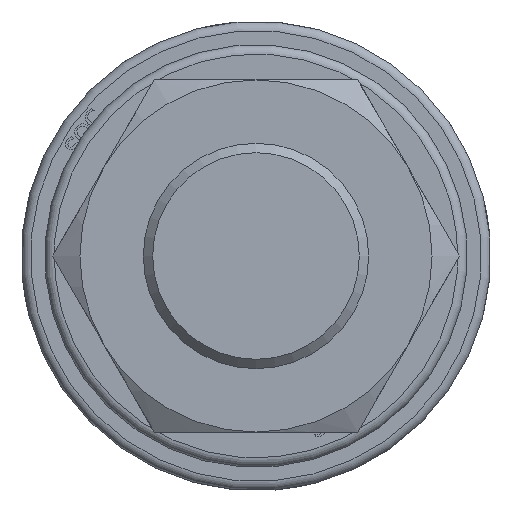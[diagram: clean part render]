
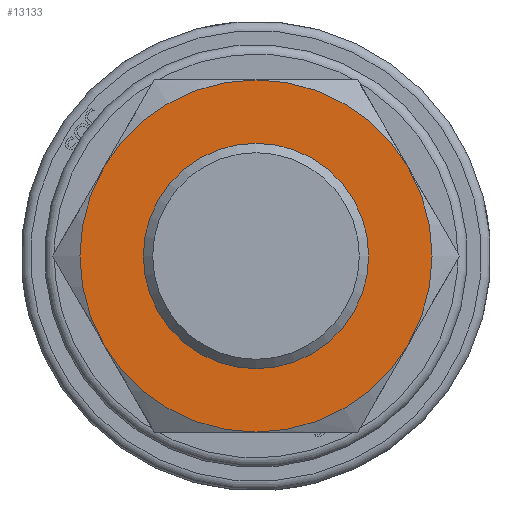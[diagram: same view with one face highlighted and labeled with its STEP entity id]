
A CAD part, front view. The second image highlights one B-rep face of the part: STEP entity #13133.
In plain terms, the highlighted planar face has unit normal (0, -1, 0) as drawn and (-1, 0, 0) by its records, which use the part's own axes.
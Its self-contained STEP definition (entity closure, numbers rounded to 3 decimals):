
#111=CIRCLE('',#13799,24.);
#113=CIRCLE('',#13803,37.5);
#114=CIRCLE('',#13804,37.5);
#115=CIRCLE('',#13805,37.5);
#116=CIRCLE('',#13806,37.5);
#117=CIRCLE('',#13807,37.5);
#118=CIRCLE('',#13808,37.5);
#175=FACE_BOUND('',#2555,.T.);
#1777=FACE_OUTER_BOUND('',#2554,.T.);
#2554=EDGE_LOOP('',(#10403,#10404,#10405,#10406,#10407,#10408));
#2555=EDGE_LOOP('',(#10409));
#5845=VERTEX_POINT('',#20168);
#5847=VERTEX_POINT('',#20174);
#5848=VERTEX_POINT('',#20175);
#5849=VERTEX_POINT('',#20177);
#5850=VERTEX_POINT('',#20179);
#5851=VERTEX_POINT('',#20181);
#5852=VERTEX_POINT('',#20183);
#7482=EDGE_CURVE('',#5845,#5845,#111,.T.);
#7484=EDGE_CURVE('',#5847,#5848,#113,.T.);
#7485=EDGE_CURVE('',#5848,#5849,#114,.T.);
#7486=EDGE_CURVE('',#5849,#5850,#115,.T.);
#7487=EDGE_CURVE('',#5850,#5851,#116,.T.);
#7488=EDGE_CURVE('',#5851,#5852,#117,.T.);
#7489=EDGE_CURVE('',#5852,#5847,#118,.T.);
#10403=ORIENTED_EDGE('',*,*,#7484,.T.);
#10404=ORIENTED_EDGE('',*,*,#7485,.T.);
#10405=ORIENTED_EDGE('',*,*,#7486,.T.);
#10406=ORIENTED_EDGE('',*,*,#7487,.T.);
#10407=ORIENTED_EDGE('',*,*,#7488,.T.);
#10408=ORIENTED_EDGE('',*,*,#7489,.T.);
#10409=ORIENTED_EDGE('',*,*,#7482,.F.);
#12641=PLANE('',#13802);
#13133=ADVANCED_FACE('',(#1777,#175),#12641,.F.);
#13799=AXIS2_PLACEMENT_3D('',#20169,#14940,#14941);
#13802=AXIS2_PLACEMENT_3D('',#20173,#14946,#14947);
#13803=AXIS2_PLACEMENT_3D('',#20176,#14948,#14949);
#13804=AXIS2_PLACEMENT_3D('',#20178,#14950,#14951);
#13805=AXIS2_PLACEMENT_3D('',#20180,#14952,#14953);
#13806=AXIS2_PLACEMENT_3D('',#20182,#14954,#14955);
#13807=AXIS2_PLACEMENT_3D('',#20184,#14956,#14957);
#13808=AXIS2_PLACEMENT_3D('',#20185,#14958,#14959);
#14940=DIRECTION('center_axis',(-1.,0.,0.));
#14941=DIRECTION('ref_axis',(0.,0.,-1.));
#14946=DIRECTION('center_axis',(1.,0.,0.));
#14947=DIRECTION('ref_axis',(0.,0.,-1.));
#14948=DIRECTION('center_axis',(-1.,0.,0.));
#14949=DIRECTION('ref_axis',(0.,1.,0.));
#14950=DIRECTION('center_axis',(-1.,0.,0.));
#14951=DIRECTION('ref_axis',(0.,1.,0.));
#14952=DIRECTION('center_axis',(-1.,0.,0.));
#14953=DIRECTION('ref_axis',(0.,1.,0.));
#14954=DIRECTION('center_axis',(-1.,0.,0.));
#14955=DIRECTION('ref_axis',(0.,1.,0.));
#14956=DIRECTION('center_axis',(-1.,0.,0.));
#14957=DIRECTION('ref_axis',(0.,1.,0.));
#14958=DIRECTION('center_axis',(-1.,0.,0.));
#14959=DIRECTION('ref_axis',(0.,1.,0.));
#20168=CARTESIAN_POINT('',(0.,0.,24.));
#20169=CARTESIAN_POINT('Origin',(0.,0.,0.));
#20173=CARTESIAN_POINT('Origin',(0.,0.,0.));
#20174=CARTESIAN_POINT('',(0.,-32.476,-18.75));
#20175=CARTESIAN_POINT('',(0.,-32.476,18.75));
#20176=CARTESIAN_POINT('Origin',(0.,0.,0.));
#20177=CARTESIAN_POINT('',(0.,0.,37.5));
#20178=CARTESIAN_POINT('Origin',(0.,0.,0.));
#20179=CARTESIAN_POINT('',(0.,32.476,18.75));
#20180=CARTESIAN_POINT('Origin',(0.,0.,0.));
#20181=CARTESIAN_POINT('',(0.,32.476,-18.75));
#20182=CARTESIAN_POINT('Origin',(0.,0.,0.));
#20183=CARTESIAN_POINT('',(0.,0.,-37.5));
#20184=CARTESIAN_POINT('Origin',(0.,0.,0.));
#20185=CARTESIAN_POINT('Origin',(0.,0.,0.));
